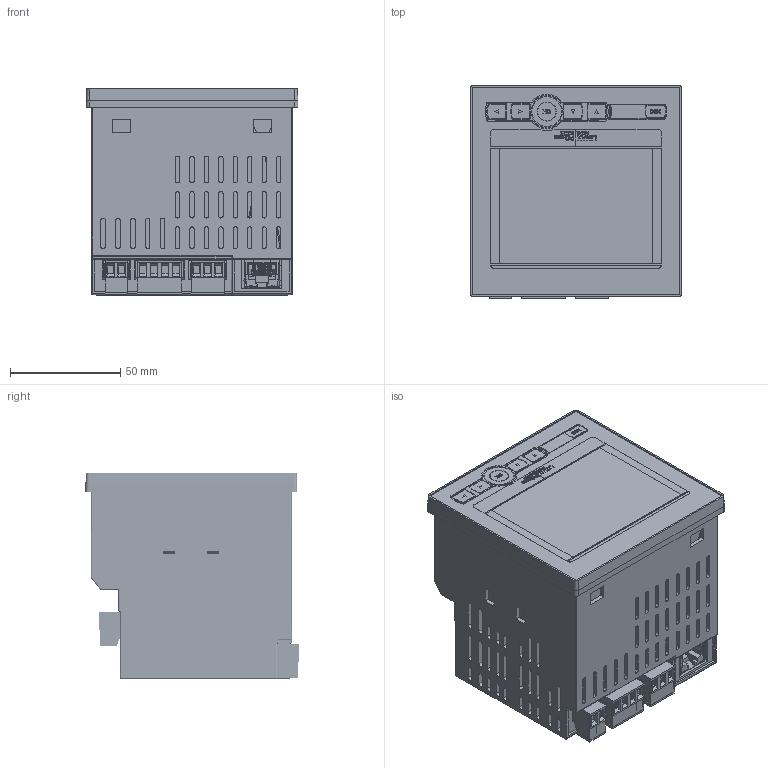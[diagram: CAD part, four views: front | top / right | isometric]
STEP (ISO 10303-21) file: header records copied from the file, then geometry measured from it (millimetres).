
FILE_DESCRIPTION (( 'STEP AP214' ), '1' );
FILE_NAME ('PQ1000 - 1... ..STEP', '2021-07-22T13:02:21', ( '' ), ( '' ), 'SwSTEP 2.0', 'SolidWorks 2019', '' );
FILE_SCHEMA (( 'AUTOMOTIVE_DESIGN' ));
Length unit declared in the file: millimetre
Products named in the file (1): PQ1000 - 1... .
Bounding box: 96 x 96.71 x 93.6 mm (x, y, z)
Surface area: 194319.3 mm2 (no closed solid volume)
Topology: 0 solids, 213 shells, 6453 faces, 17759 edges, 11886 vertices
Faces by surface type: plane 4551, cylinder 1043, bspline 731, cone 113, sphere 15
Full cylindrical faces by diameter (mm): 8.269 x1, 8.654 x1, 13.557 x1, 14.101 x1
Entity records: 350057 total; most frequent: CARTESIAN_POINT 147630, ORIENTED_EDGE 34350, EDGE_CURVE 17741, B_SPLINE_CURVE_WITH_KNOTS 15312, DIRECTION 14057, VERTEX_POINT 11886, EDGE_LOOP 7190, UNCERTAINTY_MEASURE_WITH_UNIT 6460
